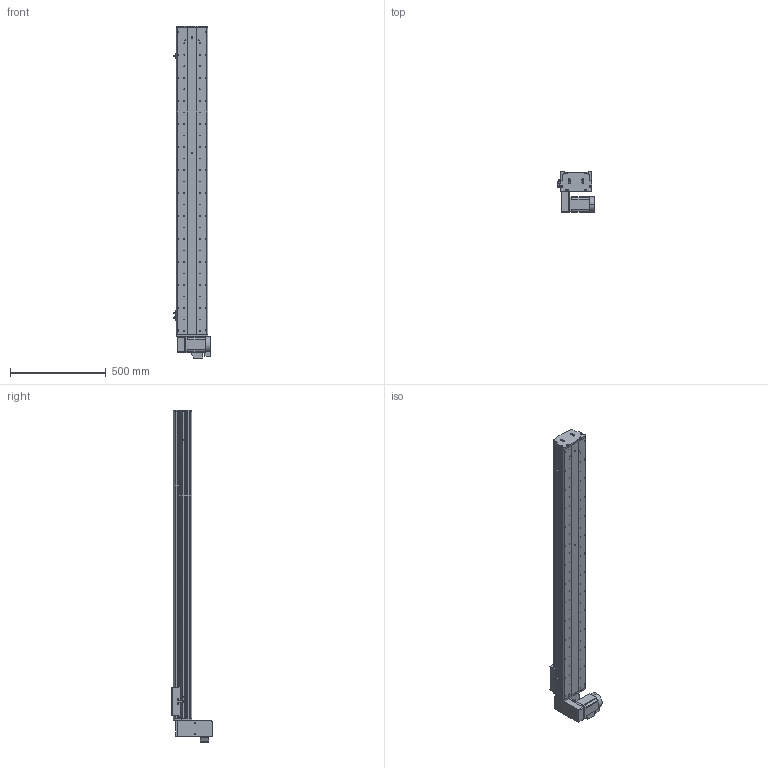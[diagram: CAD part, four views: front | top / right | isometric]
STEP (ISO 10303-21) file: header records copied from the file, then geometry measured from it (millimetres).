
FILE_DESCRIPTION (( 'STEP AP214' ), '1' );
FILE_NAME ('KSD165B-S1350-MLD-CM.STEP', '2017-10-16T07:26:19', ( '微软用户' ), ( '微软中国' ), 'SwSTEP 2.0', 'SolidWorks 2014', '' );
FILE_SCHEMA (( 'AUTOMOTIVE_DESIGN' ));
Length unit declared in the file: millimetre
Products named in the file (17): U倰嫖萇EEㄜSX672; 覜茼え68遵圉猾敕; KSD165模组-同步带-防撞垫2; KSD165模组同步带-防撞垫1; KSD165耀郪-ヶ傷啣1-肮祭湍; KSD165模组-后端板1-同步带; KSD165模组-同步带滑动座-最新版; KSD165B-S1350-MLD-CM; 130宽模组马达安装板连板上下折丝杆同步带; 130宽模组保护罩上下左右折-同步带; HTPA26S5M250-A-H8 750W萇儂蚚; HTPA26S5M250-A-H8 400W萇儂蚚 ; 165宽马达安装板同步带左-改; KSD165模组-同步带防尘盖1-1350行程; KSD165模组同步带底板-1350行程; 拸秶雄ん750W侜督萇儂; U倰嫖萇假蚾璃
Assembly tree (20 placements, depth 2):
  KSD165B-S1350-MLD-CM
    KSD165模组-同步带滑动座-最新版
    KSD165模组-后端板1-同步带
    KSD165耀郪-ヶ傷啣1-肮祭湍
    KSD165模组同步带-防撞垫1
    KSD165模组-同步带-防撞垫2
    覜茼え68遵圉猾敕
    U倰嫖萇EEㄜSX672  x3
    U倰嫖萇假蚾璃  x3
    拸秶雄ん750W侜督萇儂
    KSD165模组同步带底板-1350行程
    KSD165模组-同步带防尘盖1-1350行程
    165宽马达安装板同步带左-改
    HTPA26S5M250-A-H8 400W萇儂蚚 
    HTPA26S5M250-A-H8 750W萇儂蚚
    130宽模组保护罩上下左右折-同步带
    130宽模组马达安装板连板上下折丝杆同步带
Bounding box: 191.2 x 210 x 1731 mm (x, y, z)
Volume: 9494820.2 mm3; surface area: 2214234.2 mm2
Topology: 21 solids, 22 shells, 2033 faces, 5748 edges, 3756 vertices
Faces by surface type: cylinder 1325, plane 596, cone 112
Entity records: 66664 total; most frequent: CARTESIAN_POINT 13662, DIRECTION 10900, ORIENTED_EDGE 10156, EDGE_CURVE 5078, AXIS2_PLACEMENT_3D 4288, VERTEX_POINT 3348, CIRCLE 2452, VECTOR 2324
